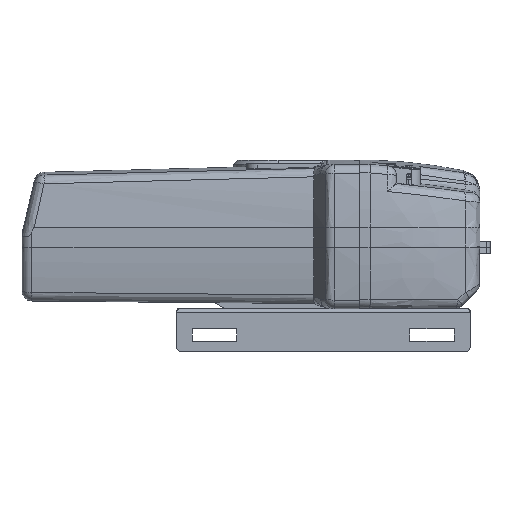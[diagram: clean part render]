
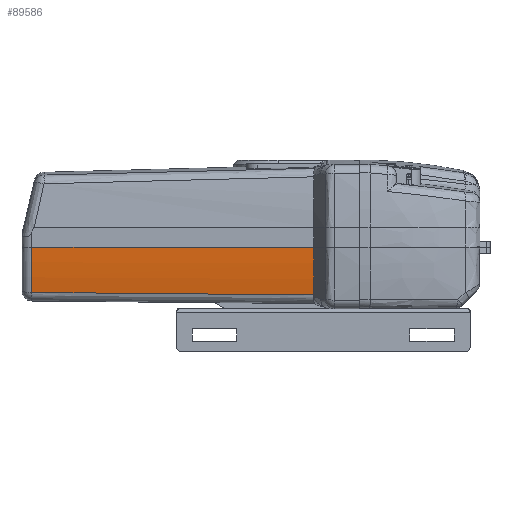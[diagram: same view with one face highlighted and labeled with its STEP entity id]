
A CAD part, left-side view. The second image highlights one B-rep face of the part: STEP entity #89586.
In plain terms, the highlighted conical face has half-angle 1.5 degrees and reference radius 186 mm.
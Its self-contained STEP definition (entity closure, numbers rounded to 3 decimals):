
#8976 = CONICAL_SURFACE ( 'NONE', #90917, 186., 0.026 ) ;
#22783 = CARTESIAN_POINT ( 'NONE',  ( 1127.213, 1886.8, 271.82 ) ) ;
#23370 = CARTESIAN_POINT ( 'NONE',  ( 1123.73, 1748.169, 270.588 ) ) ;
#25817 = CARTESIAN_POINT ( 'NONE',  ( 1127.213, 1886.8, 271.82 ) ) ;
#28406 = B_SPLINE_CURVE_WITH_KNOTS ( 'NONE', 3,
 ( #25817, #74633, #61399, #23370 ),
 .UNSPECIFIED., .F., .F.,
 ( 4, 4 ),
 ( 0., 0.139 ),
 .UNSPECIFIED. ) ;
#28662 = DIRECTION ( 'NONE',  ( 0.001, 0., -1. ) ) ;
#31444 = DIRECTION ( 'NONE',  ( -0.001, 0., 1. ) ) ;
#33085 = FACE_OUTER_BOUND ( 'NONE', #93581, .T. ) ;
#39370 = VERTEX_POINT ( 'NONE', #114634 ) ;
#43890 = CARTESIAN_POINT ( 'NONE',  ( 1307.535, 1748.169, 299.072 ) ) ;
#55572 = VERTEX_POINT ( 'NONE', #113176 ) ;
#55718 = CARTESIAN_POINT ( 'NONE',  ( 1124.024, 1840.589, 294.058 ) ) ;
#58006 = EDGE_CURVE ( 'NONE', #63147, #161095, #75440, .T. ) ;
#61399 = CARTESIAN_POINT ( 'NONE',  ( 1124.89, 1794.379, 270.998 ) ) ;
#63147 = VERTEX_POINT ( 'NONE', #122673 ) ;
#64952 = ORIENTED_EDGE ( 'NONE', *, *, #159930, .T. ) ;
#69808 = EDGE_CURVE ( 'NONE', #39370, #55572, #136207, .T. ) ;
#73258 = ORIENTED_EDGE ( 'NONE', *, *, #69808, .T. ) ;
#74633 = CARTESIAN_POINT ( 'NONE',  ( 1126.052, 1840.589, 271.409 ) ) ;
#75440 = CIRCLE ( 'NONE', #162471, 182.37 ) ;
#88430 = DIRECTION ( 'NONE',  ( -1., 0., -0.027 ) ) ;
#89586 = ADVANCED_FACE ( 'NONE', ( #33085 ), #8976, .T. ) ;
#90917 = AXIS2_PLACEMENT_3D ( 'NONE', #43890, #145512, #31444 ) ;
#93581 = EDGE_LOOP ( 'NONE', ( #102396, #108152, #64952, #73258 ) ) ;
#102396 = ORIENTED_EDGE ( 'NONE', *, *, #154799, .F. ) ;
#105518 = DIRECTION ( 'NONE',  ( 0., -1., 0. ) ) ;
#108152 = ORIENTED_EDGE ( 'NONE', *, *, #58006, .T. ) ;
#113176 = CARTESIAN_POINT ( 'NONE',  ( 1121.604, 1748.169, 294.024 ) ) ;
#114634 = CARTESIAN_POINT ( 'NONE',  ( 1123.73, 1748.169, 270.588 ) ) ;
#122673 = CARTESIAN_POINT ( 'NONE',  ( 1125.234, 1886.8, 294.075 ) ) ;
#127259 = CARTESIAN_POINT ( 'NONE',  ( 1307.535, 1748.169, 299.072 ) ) ;
#127695 = CARTESIAN_POINT ( 'NONE',  ( 1122.814, 1794.379, 294.041 ) ) ;
#128504 = CARTESIAN_POINT ( 'NONE',  ( 1121.604, 1748.169, 294.024 ) ) ;
#130141 = CARTESIAN_POINT ( 'NONE',  ( 1125.234, 1886.8, 294.075 ) ) ;
#136207 = CIRCLE ( 'NONE', #146811, 186. ) ;
#141932 = CARTESIAN_POINT ( 'NONE',  ( 1307.535, 1886.8, 299.072 ) ) ;
#145512 = DIRECTION ( 'NONE',  ( 0., -1., 0. ) ) ;
#146811 = AXIS2_PLACEMENT_3D ( 'NONE', #127259, #163628, #88430 ) ;
#153694 = B_SPLINE_CURVE_WITH_KNOTS ( 'NONE', 3,
 ( #130141, #55718, #127695, #128504 ),
 .UNSPECIFIED., .F., .F.,
 ( 4, 4 ),
 ( 0.005, 0.144 ),
 .UNSPECIFIED. ) ;
#154799 = EDGE_CURVE ( 'NONE', #63147, #55572, #153694, .T. ) ;
#159930 = EDGE_CURVE ( 'NONE', #161095, #39370, #28406, .T. ) ;
#161095 = VERTEX_POINT ( 'NONE', #22783 ) ;
#162471 = AXIS2_PLACEMENT_3D ( 'NONE', #141932, #105518, #28662 ) ;
#163628 = DIRECTION ( 'NONE',  ( 0., 1., 0. ) ) ;
